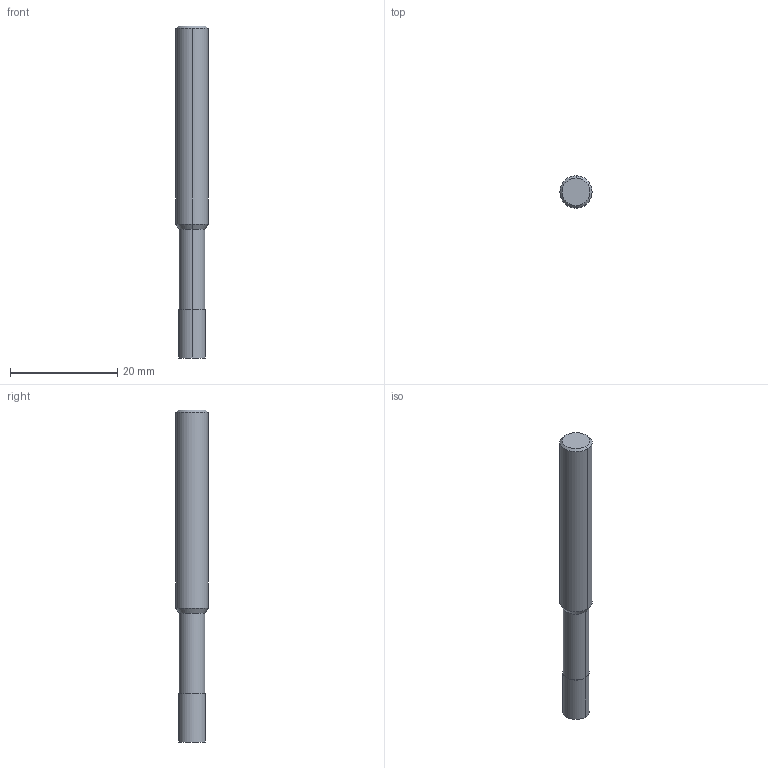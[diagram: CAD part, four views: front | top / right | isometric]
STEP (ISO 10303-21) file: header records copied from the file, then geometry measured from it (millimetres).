
FILE_DESCRIPTION((''),'2;1');
FILE_NAME('DIN4003_82_HEURO','2016-06-28T',('automc'),(''),'PRO/ENGINEER BY PARAMETRIC TECHNOLOGY CORPORATION, 2015280','PRO/ENGINEER BY PARAMETRIC TECHNOLOGY CORPORATION, 2015280','');
FILE_SCHEMA(('AUTOMOTIVE_DESIGN { 1 0 10303 214 1 1 1 1 }'));
Length unit declared in the file: millimetre
Products named in the file (1): DIN4003_82_HEURO
Bounding box: 6 x 6 x 62 mm (x, y, z)
Volume: 1515.9 mm3; surface area: 1129.6 mm2
Topology: 1 solids, 1 shells, 13 faces, 26 edges, 17 vertices
Faces by surface type: bspline 13
Entity records: 750 total; most frequent: CARTESIAN_POINT 251, DIRECTION 69, ORIENTED_EDGE 48, AXIS2_PLACEMENT_3D 26, EDGE_CURVE 24, PRESENTATION_STYLE_ASSIGNMENT 23, STYLED_ITEM 23, VECTOR 17
